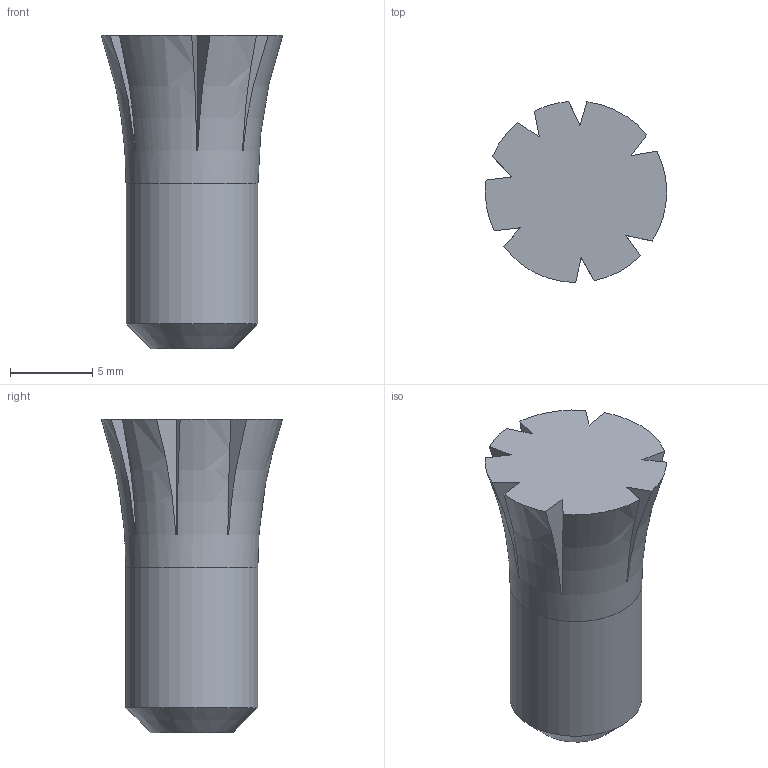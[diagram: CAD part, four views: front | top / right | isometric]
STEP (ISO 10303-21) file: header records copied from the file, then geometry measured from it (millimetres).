
FILE_DESCRIPTION(/* description */ (''),/* implementation_level */ '2;1');
FILE_NAME(/* name */ 'Fuse.step',/* time_stamp */ '2024-01-09T12:49:11-05:00',/* author */ (''),/* organization */ (''),/* preprocessor_version */ 'ST-DEVELOPER v20',/* originating_system */ 'Autodesk Translation Framework v12.14.0.127',/* authorisation */ '');
FILE_SCHEMA (('AUTOMOTIVE_DESIGN { 1 0 10303 214 3 1 1 }'));
Length unit declared in the file: millimetre
Products named in the file (1): Fuse
Bounding box: 11 x 10.98 x 19 mm (x, y, z)
Volume: 1043.4 mm3; surface area: 664.9 mm2
Topology: 1 solids, 1 shells, 26 faces, 71 edges, 47 vertices
Faces by surface type: plane 23, cone 1, cylinder 1, torus 1
Full cylindrical faces by diameter (mm): 8 x1
Entity records: 902 total; most frequent: CARTESIAN_POINT 215, ORIENTED_EDGE 142, DIRECTION 131, EDGE_CURVE 71, VERTEX_POINT 47, AXIS2_PLACEMENT_3D 47, LINE 37, VECTOR 37
